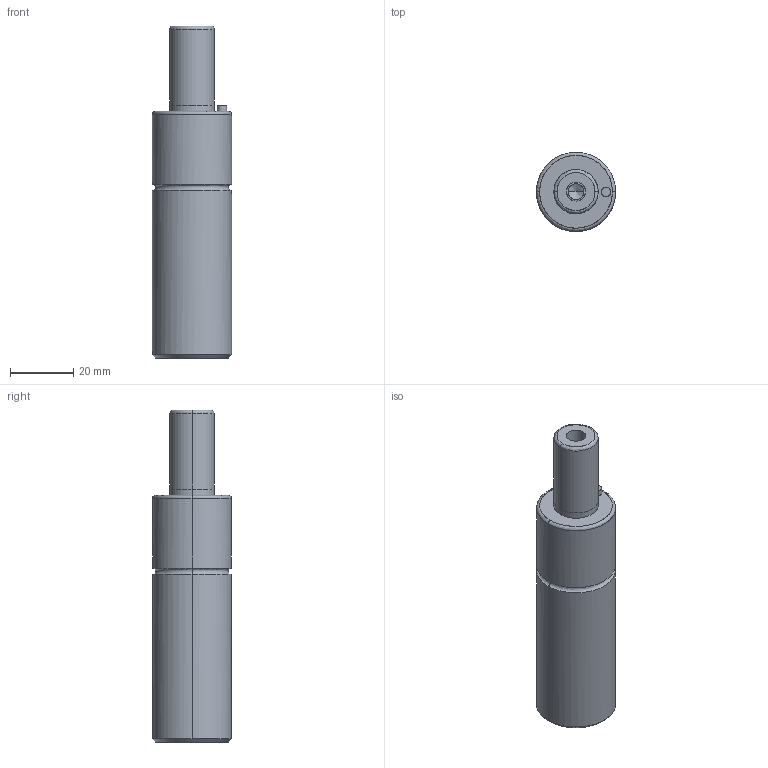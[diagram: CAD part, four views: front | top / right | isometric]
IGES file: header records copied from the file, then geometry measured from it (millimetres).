
Global section: file name: E:\UnigraphicsGraphicData\MISUMI_PRESS-PARTS\IGES\3d_gsm25-25_03939_r00.igs; native system: NX V5.0; preprocessor: UGS NX IGES V5.0; author: MISUMI; date: 20110105.160807; units: millimetre
Bounding box: 25 x 24.96 x 105 mm (x, y, z)
Surface area: 8657.7 mm2 (no closed solid volume)
Topology: 0 solids, 0 shells, 36 faces, 216 edges, 212 vertices
Faces by surface type: bspline 36
